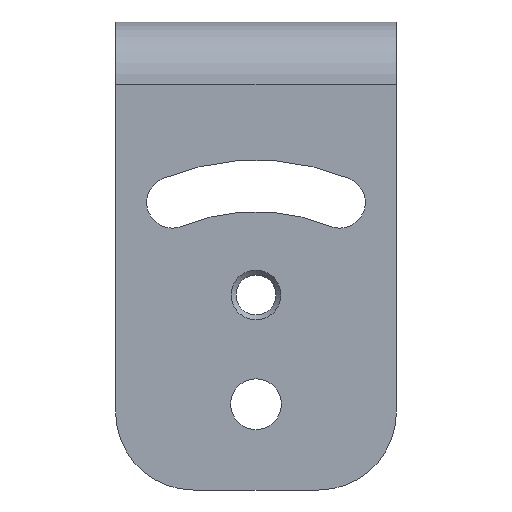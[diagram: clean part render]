
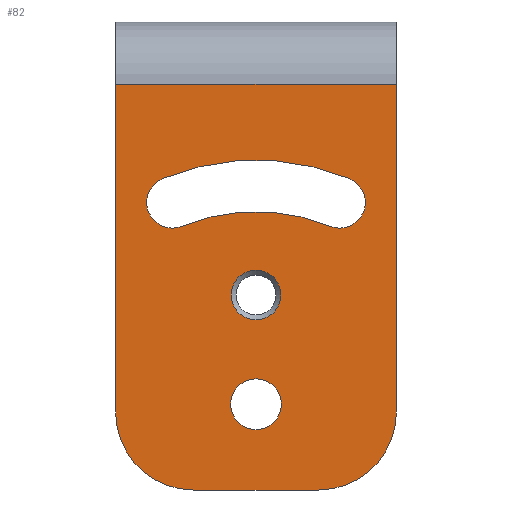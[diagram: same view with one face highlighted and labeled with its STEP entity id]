
A CAD part, front view. The second image highlights one B-rep face of the part: STEP entity #82.
In plain terms, the highlighted planar face has unit normal (0, -1, 0).
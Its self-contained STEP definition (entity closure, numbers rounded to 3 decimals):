
#7 = ORIENTED_EDGE ( 'NONE', *, *, #110, .T. ) ;
#17 = AXIS2_PLACEMENT_3D ( 'NONE', #403, #86, #555 ) ;
#19 = VERTEX_POINT ( 'NONE', #70 ) ;
#23 = CARTESIAN_POINT ( 'NONE',  ( -18., 0., -8. ) ) ;
#33 = CARTESIAN_POINT ( 'NONE',  ( 9.452, 0., -26.18 ) ) ;
#36 = ORIENTED_EDGE ( 'NONE', *, *, #377, .T. ) ;
#40 = AXIS2_PLACEMENT_3D ( 'NONE', #523, #702, #711 ) ;
#43 = DIRECTION ( 'NONE',  ( 0., 0., 1. ) ) ;
#49 = AXIS2_PLACEMENT_3D ( 'NONE', #515, #76, #230 ) ;
#59 = CIRCLE ( 'NONE', #618, 10. ) ;
#61 = EDGE_CURVE ( 'NONE', #118, #85, #65, .T. ) ;
#65 = LINE ( 'NONE', #279, #469 ) ;
#70 = CARTESIAN_POINT ( 'NONE',  ( -8., 0., -60. ) ) ;
#76 = DIRECTION ( 'NONE',  ( 0., 1., 0. ) ) ;
#82 = ADVANCED_FACE ( 'NONE', ( #500, #570, #391, #508 ), #171, .F. ) ;
#85 = VERTEX_POINT ( 'NONE', #23 ) ;
#86 = DIRECTION ( 'NONE',  ( 0., -1., 0. ) ) ;
#97 = DIRECTION ( 'NONE',  ( 0., 0., 1. ) ) ;
#104 = CIRCLE ( 'NONE', #334, 3.25 ) ;
#110 = EDGE_CURVE ( 'NONE', #143, #472, #519, .T. ) ;
#118 = VERTEX_POINT ( 'NONE', #393 ) ;
#130 = DIRECTION ( 'NONE',  ( 0., 0., 1. ) ) ;
#138 = AXIS2_PLACEMENT_3D ( 'NONE', #626, #561, #180 ) ;
#143 = VERTEX_POINT ( 'NONE', #524 ) ;
#147 = LINE ( 'NONE', #352, #466 ) ;
#151 = CARTESIAN_POINT ( 'NONE',  ( 18., 0., -60.001 ) ) ;
#162 = CARTESIAN_POINT ( 'NONE',  ( 0., 0., -49. ) ) ;
#166 = VERTEX_POINT ( 'NONE', #573 ) ;
#168 = CIRCLE ( 'NONE', #574, 31.3 ) ;
#171 = PLANE ( 'NONE',  #138 ) ;
#172 = CARTESIAN_POINT ( 'NONE',  ( 0., 0., -45.75 ) ) ;
#180 = DIRECTION ( 'NONE',  ( 0., 0., 1. ) ) ;
#186 = CIRCLE ( 'NONE', #602, 10. ) ;
#209 = EDGE_LOOP ( 'NONE', ( #36 ) ) ;
#213 = DIRECTION ( 'NONE',  ( 0., 1., 0. ) ) ;
#215 = EDGE_LOOP ( 'NONE', ( #497, #317, #695, #607, #490, #428 ) ) ;
#226 = CARTESIAN_POINT ( 'NONE',  ( 18., 0., -50. ) ) ;
#230 = DIRECTION ( 'NONE',  ( 0., 0., -1. ) ) ;
#242 = CARTESIAN_POINT ( 'NONE',  ( -9.452, 0., -26.18 ) ) ;
#243 = EDGE_CURVE ( 'NONE', #353, #452, #59, .T. ) ;
#258 = EDGE_LOOP ( 'NONE', ( #679, #386, #7, #501 ) ) ;
#259 = DIRECTION ( 'NONE',  ( 0., 1., 0. ) ) ;
#264 = VERTEX_POINT ( 'NONE', #319 ) ;
#267 = CIRCLE ( 'NONE', #446, 3.188 ) ;
#279 = CARTESIAN_POINT ( 'NONE',  ( -18., 0., -60.001 ) ) ;
#304 = EDGE_CURVE ( 'NONE', #623, #143, #168, .T. ) ;
#310 = LINE ( 'NONE', #612, #696 ) ;
#314 = DIRECTION ( 'NONE',  ( -1., 0., 0. ) ) ;
#317 = ORIENTED_EDGE ( 'NONE', *, *, #243, .T. ) ;
#319 = CARTESIAN_POINT ( 'NONE',  ( 0., 0., -31.812 ) ) ;
#326 = ORIENTED_EDGE ( 'NONE', *, *, #605, .T. ) ;
#334 = AXIS2_PLACEMENT_3D ( 'NONE', #654, #259, #365 ) ;
#349 = EDGE_CURVE ( 'NONE', #166, #85, #310, .T. ) ;
#352 = CARTESIAN_POINT ( 'NONE',  ( 30., 0., -60. ) ) ;
#353 = VERTEX_POINT ( 'NONE', #422 ) ;
#363 = CARTESIAN_POINT ( 'NONE',  ( 0., 0., -35. ) ) ;
#365 = DIRECTION ( 'NONE',  ( 0., 0., 1. ) ) ;
#377 = EDGE_CURVE ( 'NONE', #264, #264, #267, .T. ) ;
#386 = ORIENTED_EDGE ( 'NONE', *, *, #304, .T. ) ;
#391 = FACE_BOUND ( 'NONE', #434, .T. ) ;
#393 = CARTESIAN_POINT ( 'NONE',  ( -18., 0., -50. ) ) ;
#403 = CARTESIAN_POINT ( 'NONE',  ( 0., 0., -49. ) ) ;
#420 = DIRECTION ( 'NONE',  ( 0., 1., 0. ) ) ;
#422 = CARTESIAN_POINT ( 'NONE',  ( 8., 0., -60. ) ) ;
#423 = CARTESIAN_POINT ( 'NONE',  ( -11.978, 0., -20.083 ) ) ;
#428 = ORIENTED_EDGE ( 'NONE', *, *, #656, .T. ) ;
#434 = EDGE_LOOP ( 'NONE', ( #326 ) ) ;
#446 = AXIS2_PLACEMENT_3D ( 'NONE', #363, #213, #664 ) ;
#452 = VERTEX_POINT ( 'NONE', #226 ) ;
#463 = CIRCLE ( 'NONE', #17, 24.7 ) ;
#465 = DIRECTION ( 'NONE',  ( 0., 0., 1. ) ) ;
#466 = VECTOR ( 'NONE', #613, 1000. ) ;
#467 = DIRECTION ( 'NONE',  ( 0., -1., 0. ) ) ;
#469 = VECTOR ( 'NONE', #130, 1000. ) ;
#472 = VERTEX_POINT ( 'NONE', #33 ) ;
#473 = EDGE_CURVE ( 'NONE', #472, #548, #463, .T. ) ;
#490 = ORIENTED_EDGE ( 'NONE', *, *, #61, .F. ) ;
#497 = ORIENTED_EDGE ( 'NONE', *, *, #693, .F. ) ;
#500 = FACE_BOUND ( 'NONE', #209, .T. ) ;
#501 = ORIENTED_EDGE ( 'NONE', *, *, #473, .T. ) ;
#508 = FACE_BOUND ( 'NONE', #258, .T. ) ;
#510 = VECTOR ( 'NONE', #43, 1000. ) ;
#515 = CARTESIAN_POINT ( 'NONE',  ( 10.715, 0., -23.131 ) ) ;
#519 = CIRCLE ( 'NONE', #49, 3.3 ) ;
#523 = CARTESIAN_POINT ( 'NONE',  ( -10.715, 0., -23.131 ) ) ;
#524 = CARTESIAN_POINT ( 'NONE',  ( 11.978, 0., -20.083 ) ) ;
#537 = DIRECTION ( 'NONE',  ( 0., 0., 1. ) ) ;
#548 = VERTEX_POINT ( 'NONE', #242 ) ;
#555 = DIRECTION ( 'NONE',  ( 0., 0., 1. ) ) ;
#561 = DIRECTION ( 'NONE',  ( 0., 1., 0. ) ) ;
#570 = FACE_OUTER_BOUND ( 'NONE', #215, .T. ) ;
#573 = CARTESIAN_POINT ( 'NONE',  ( 18., 0., -8. ) ) ;
#574 = AXIS2_PLACEMENT_3D ( 'NONE', #162, #420, #537 ) ;
#584 = DIRECTION ( 'NONE',  ( 0., -1., 0. ) ) ;
#595 = CARTESIAN_POINT ( 'NONE',  ( -8., 0., -50. ) ) ;
#598 = LINE ( 'NONE', #151, #510 ) ;
#602 = AXIS2_PLACEMENT_3D ( 'NONE', #595, #467, #97 ) ;
#605 = EDGE_CURVE ( 'NONE', #622, #622, #104, .T. ) ;
#607 = ORIENTED_EDGE ( 'NONE', *, *, #349, .T. ) ;
#612 = CARTESIAN_POINT ( 'NONE',  ( 30., 0., -8. ) ) ;
#613 = DIRECTION ( 'NONE',  ( -1., 0., 0. ) ) ;
#618 = AXIS2_PLACEMENT_3D ( 'NONE', #643, #584, #465 ) ;
#622 = VERTEX_POINT ( 'NONE', #172 ) ;
#623 = VERTEX_POINT ( 'NONE', #423 ) ;
#626 = CARTESIAN_POINT ( 'NONE',  ( 30., 0., 0. ) ) ;
#627 = EDGE_CURVE ( 'NONE', #548, #623, #697, .T. ) ;
#635 = EDGE_CURVE ( 'NONE', #452, #166, #598, .T. ) ;
#643 = CARTESIAN_POINT ( 'NONE',  ( 8., 0., -50. ) ) ;
#654 = CARTESIAN_POINT ( 'NONE',  ( 0., 0., -49. ) ) ;
#656 = EDGE_CURVE ( 'NONE', #118, #19, #186, .T. ) ;
#664 = DIRECTION ( 'NONE',  ( 0., 0., 1. ) ) ;
#679 = ORIENTED_EDGE ( 'NONE', *, *, #627, .T. ) ;
#693 = EDGE_CURVE ( 'NONE', #353, #19, #147, .T. ) ;
#695 = ORIENTED_EDGE ( 'NONE', *, *, #635, .T. ) ;
#696 = VECTOR ( 'NONE', #314, 1000. ) ;
#697 = CIRCLE ( 'NONE', #40, 3.3 ) ;
#702 = DIRECTION ( 'NONE',  ( 0., 1., 0. ) ) ;
#711 = DIRECTION ( 'NONE',  ( 0., 0., 1. ) ) ;
